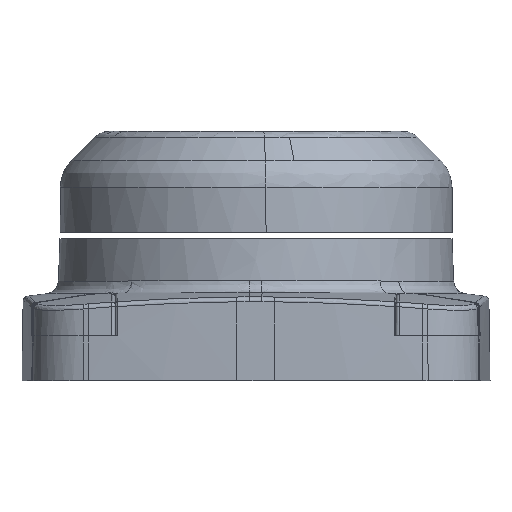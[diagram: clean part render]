
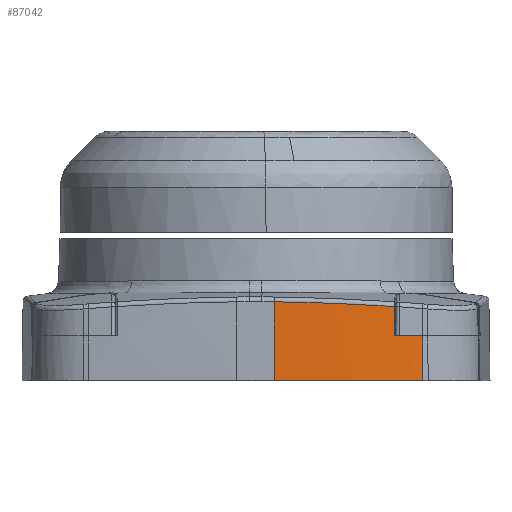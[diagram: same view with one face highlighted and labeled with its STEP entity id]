
A CAD part, top view. The second image highlights one B-rep face of the part: STEP entity #87042.
In plain terms, the highlighted conical face has half-angle 0.8 degrees and reference radius 363.395 mm.
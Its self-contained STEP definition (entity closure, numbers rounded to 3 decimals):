
#2069 = EDGE_CURVE ( 'NONE', #93983, #12148, #35534, .T. ) ;
#2264 = CARTESIAN_POINT ( 'NONE',  ( 494.707, -236.927, -328.157 ) ) ;
#4487 = CARTESIAN_POINT ( 'NONE',  ( 517.923, -274.447, -325.998 ) ) ;
#4488 = CARTESIAN_POINT ( 'NONE',  ( 493.227, -274.446, -326.296 ) ) ;
#6075 = EDGE_CURVE ( 'NONE', #93983, #69416, #79686, .T. ) ;
#6880 = CARTESIAN_POINT ( 'NONE',  ( 517.243, -273.819, -689.391 ) ) ;
#7662 = EDGE_CURVE ( 'NONE', #69416, #62651, #55749, .T. ) ;
#7954 = CARTESIAN_POINT ( 'NONE',  ( 503.919, -236.927, -328.045 ) ) ;
#8252 = CARTESIAN_POINT ( 'NONE',  ( 494.707, -236.927, -328.157 ) ) ;
#8614 = AXIS2_PLACEMENT_3D ( 'NONE', #6880, #96090, #43028 ) ;
#9303 = VECTOR ( 'NONE', #89317, 1000. ) ;
#12148 = VERTEX_POINT ( 'NONE', #33650 ) ;
#16061 = ORIENTED_EDGE ( 'NONE', *, *, #93990, .T. ) ;
#16348 = CARTESIAN_POINT ( 'NONE',  ( 517.923, -274.447, -325.998 ) ) ;
#22161 = CARTESIAN_POINT ( 'NONE',  ( 493.861, -249.392, -326.894 ) ) ;
#22870 = CARTESIAN_POINT ( 'NONE',  ( 517.921, -243.36, -326.942 ) ) ;
#25968 = CARTESIAN_POINT ( 'NONE',  ( 503.917, -227.967, -329.072 ) ) ;
#31848 = CARTESIAN_POINT ( 'NONE',  ( 503.919, -236.478, -328.091 ) ) ;
#33650 = CARTESIAN_POINT ( 'NONE',  ( 503.919, -236.478, -328.091 ) ) ;
#35534 = B_SPLINE_CURVE_WITH_KNOTS ( 'NONE', 3,
 ( #60528, #47153, #53399, #31848 ),
 .UNSPECIFIED., .F., .F.,
 ( 4, 4 ),
 ( 0., 1. ),
 .UNSPECIFIED. ) ;
#37478 = CARTESIAN_POINT ( 'NONE',  ( 517.923, -258.904, -325.971 ) ) ;
#42542 = EDGE_LOOP ( 'NONE', ( #66025, #66477, #62045, #57329, #61457, #16061, #83422 ) ) ;
#43028 = DIRECTION ( 'NONE',  ( -0.002, 0., -1. ) ) ;
#44925 = CARTESIAN_POINT ( 'NONE',  ( 494.707, -236.927, -328.157 ) ) ;
#45392 = EDGE_CURVE ( 'NONE', #89561, #80559, #66104, .T. ) ;
#45953 = CARTESIAN_POINT ( 'NONE',  ( 517.918, -227.942, -328.904 ) ) ;
#47153 = CARTESIAN_POINT ( 'NONE',  ( 503.919, -236.777, -328.06 ) ) ;
#47286 = EDGE_CURVE ( 'NONE', #62651, #89561, #62941, .T. ) ;
#51208 = CARTESIAN_POINT ( 'NONE',  ( 493.227, -274.446, -326.296 ) ) ;
#52414 = CARTESIAN_POINT ( 'NONE',  ( 503.918, -233.637, -328.385 ) ) ;
#52714 = CARTESIAN_POINT ( 'NONE',  ( 503.918, -230.8, -328.712 ) ) ;
#53399 = CARTESIAN_POINT ( 'NONE',  ( 503.919, -236.627, -328.076 ) ) ;
#55749 = B_SPLINE_CURVE_WITH_KNOTS ( 'NONE', 3,
 ( #44925, #22161, #81167, #51208 ),
 .UNSPECIFIED., .F., .F.,
 ( 4, 4 ),
 ( 0., 1. ),
 .UNSPECIFIED. ) ;
#57329 = ORIENTED_EDGE ( 'NONE', *, *, #47286, .T. ) ;
#60528 = CARTESIAN_POINT ( 'NONE',  ( 503.919, -236.927, -328.045 ) ) ;
#61457 = ORIENTED_EDGE ( 'NONE', *, *, #45392, .T. ) ;
#62045 = ORIENTED_EDGE ( 'NONE', *, *, #7662, .T. ) ;
#62651 = VERTEX_POINT ( 'NONE', #4488 ) ;
#62941 = LINE ( 'NONE', #66214, #9303 ) ;
#63500 = CARTESIAN_POINT ( 'NONE',  ( 517.918, -227.942, -328.904 ) ) ;
#66025 = ORIENTED_EDGE ( 'NONE', *, *, #2069, .F. ) ;
#66104 = B_SPLINE_CURVE_WITH_KNOTS ( 'NONE', 3,
 ( #16348, #37478, #22870, #45953 ),
 .UNSPECIFIED., .F., .F.,
 ( 4, 4 ),
 ( 0., 1. ),
 .UNSPECIFIED. ) ;
#66214 = CARTESIAN_POINT ( 'NONE',  ( 493.227, -274.446, -326.296 ) ) ;
#66386 = CARTESIAN_POINT ( 'NONE',  ( 503.917, -227.967, -329.072 ) ) ;
#66477 = ORIENTED_EDGE ( 'NONE', *, *, #6075, .T. ) ;
#69416 = VERTEX_POINT ( 'NONE', #2264 ) ;
#71063 = CARTESIAN_POINT ( 'NONE',  ( 517.918, -227.942, -328.904 ) ) ;
#71375 = CARTESIAN_POINT ( 'NONE',  ( 503.919, -236.927, -328.045 ) ) ;
#73610 = B_SPLINE_CURVE_WITH_KNOTS ( 'NONE', 1,
 ( #71063, #94177 ),
 .UNSPECIFIED., .F., .F.,
 ( 2, 2 ),
 ( 0., 1. ),
 .UNSPECIFIED. ) ;
#74215 = CONICAL_SURFACE ( 'NONE', #8614, 363.395, 0.014 ) ;
#74400 = CARTESIAN_POINT ( 'NONE',  ( 497.778, -236.927, -328.12 ) ) ;
#79686 = B_SPLINE_CURVE_WITH_KNOTS ( 'NONE', 3,
 ( #7954, #96543, #74400, #8252 ),
 .UNSPECIFIED., .F., .F.,
 ( 4, 4 ),
 ( 0., 1. ),
 .UNSPECIFIED. ) ;
#80559 = VERTEX_POINT ( 'NONE', #63500 ) ;
#81167 = CARTESIAN_POINT ( 'NONE',  ( 493.368, -261.92, -326.273 ) ) ;
#81725 = CARTESIAN_POINT ( 'NONE',  ( 503.919, -236.478, -328.091 ) ) ;
#83192 = B_SPLINE_CURVE_WITH_KNOTS ( 'NONE', 3,
 ( #66386, #52714, #52414, #81725 ),
 .UNSPECIFIED., .F., .F.,
 ( 4, 4 ),
 ( 0., 1. ),
 .UNSPECIFIED. ) ;
#83422 = ORIENTED_EDGE ( 'NONE', *, *, #90864, .T. ) ;
#87025 = FACE_OUTER_BOUND ( 'NONE', #42542, .T. ) ;
#87042 = ADVANCED_FACE ( 'NONE', ( #87025 ), #74215, .T. ) ;
#89317 = DIRECTION ( 'NONE',  ( 1., 0., 0.012 ) ) ;
#89561 = VERTEX_POINT ( 'NONE', #4487 ) ;
#90864 = EDGE_CURVE ( 'NONE', #91232, #12148, #83192, .T. ) ;
#91232 = VERTEX_POINT ( 'NONE', #25968 ) ;
#93983 = VERTEX_POINT ( 'NONE', #71375 ) ;
#93990 = EDGE_CURVE ( 'NONE', #80559, #91232, #73610, .T. ) ;
#94177 = CARTESIAN_POINT ( 'NONE',  ( 503.917, -227.967, -329.072 ) ) ;
#96090 = DIRECTION ( 'NONE',  ( 1., 0., -0.002 ) ) ;
#96543 = CARTESIAN_POINT ( 'NONE',  ( 500.848, -236.927, -328.082 ) ) ;
